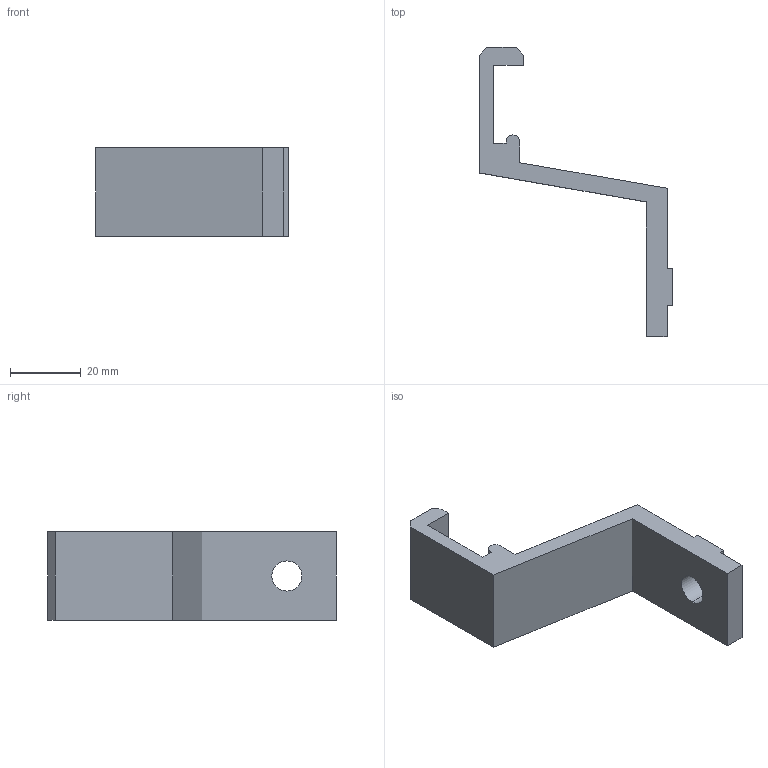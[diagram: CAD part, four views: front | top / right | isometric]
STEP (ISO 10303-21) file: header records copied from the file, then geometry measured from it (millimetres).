
FILE_DESCRIPTION (( 'STEP AP214' ), '1' );
FILE_NAME ('FGRB 49X42.step', '2017-04-05T07:39:02', ( '' ), ( '' ), 'SwSTEP 2.0', 'SolidWorks 2015', '' );
FILE_SCHEMA (( 'AUTOMOTIVE_DESIGN' ));
Length unit declared in the file: millimetre
Products named in the file (1): FGRB 49X42
Bounding box: 54.5 x 81.6 x 25 mm (x, y, z)
Volume: 17057.3 mm3; surface area: 8371.5 mm2
Topology: 1 solids, 1 shells, 24 faces, 66 edges, 44 vertices
Faces by surface type: plane 21, cylinder 3
Entity records: 794 total; most frequent: CARTESIAN_POINT 135, ORIENTED_EDGE 132, DIRECTION 122, EDGE_CURVE 66, VECTOR 60, LINE 60, VERTEX_POINT 44, AXIS2_PLACEMENT_3D 31
